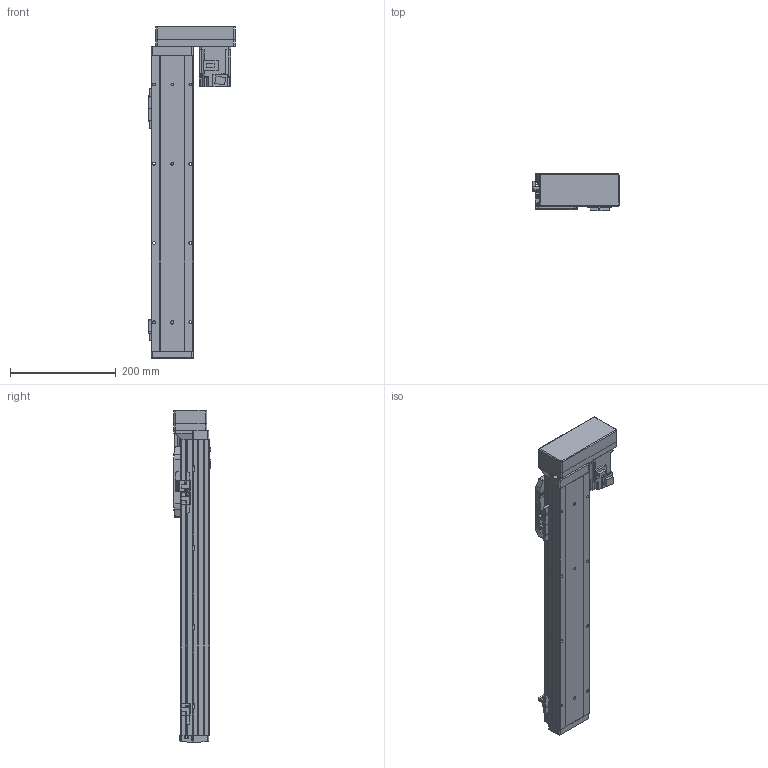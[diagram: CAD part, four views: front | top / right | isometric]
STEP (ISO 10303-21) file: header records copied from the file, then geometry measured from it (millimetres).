
FILE_DESCRIPTION (( 'STEP AP214' ), '1' );
FILE_NAME ('GSH8-400-BL-M20-1.step', '2025-01-07T06:05:39', ( '' ), ( '' ), 'SwSTEP 2.0', 'SolidWorks 2012', '' );
FILE_SCHEMA (( 'AUTOMOTIVE_DESIGN' ));
Length unit declared in the file: millimetre
Products named in the file (5): GSH8-BL-011-400-M20; HG-KR23_200W_Motor; GSH8-BL-008; GSH8-GY-004; GSH8-400-BL-M20-1
Assembly tree (4 placements, depth 2):
  GSH8-400-BL-M20-1
    GSH8-BL-011-400-M20
    GSH8-GY-004
    GSH8-BL-008
    HG-KR23_200W_Motor
Bounding box: 163 x 71.3 x 628.2 mm (x, y, z)
Volume: 1777469.6 mm3; surface area: 417396.8 mm2
Topology: 4 solids, 8 shells, 1103 faces, 2882 edges, 1852 vertices
Faces by surface type: plane 630, cylinder 377, torus 42, cone 26, bspline 24, sphere 4
Entity records: 43260 total; most frequent: CARTESIAN_POINT 9786, DIRECTION 5846, ORIENTED_EDGE 5748, EDGE_CURVE 2874, AXIS2_PLACEMENT_3D 1964, LINE 1918, VECTOR 1918, VERTEX_POINT 1848
